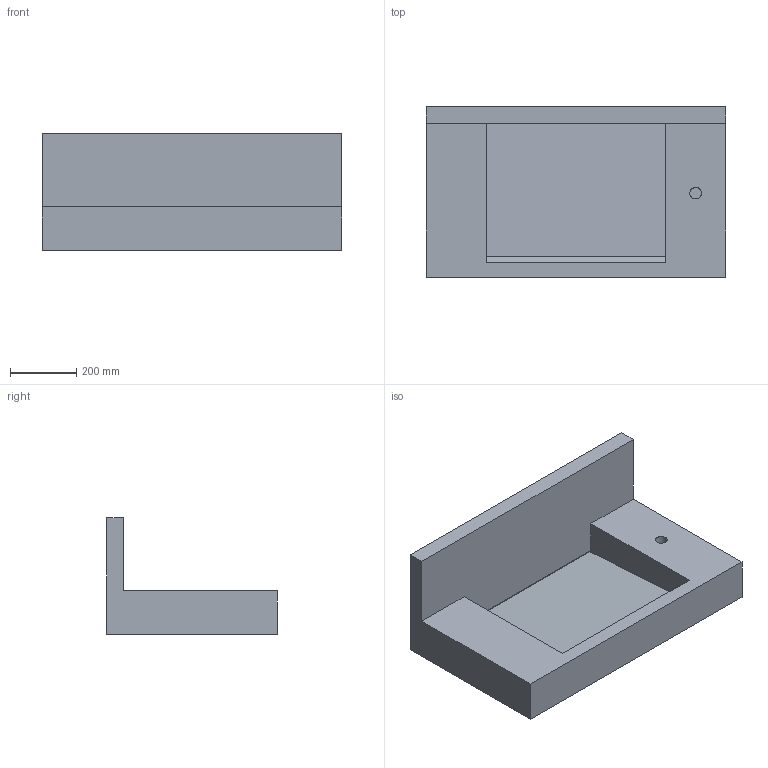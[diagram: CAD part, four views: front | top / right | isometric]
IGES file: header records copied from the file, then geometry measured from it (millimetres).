
Start section: Data from Parasolid IGES Translator 19.0.9, Copyright(c) 2006 Siemens PL M Software. All Rights Reserved.
Global section: file name: noorth-top-H 13 D 51,3 W 90_4791.igs; native system: By Siemens PLM Incorporated; preprocessor: XPlus GENERIC/IGES 19.0.9; author: Noname; organization: Noname; date: 20200601.163401; units: metre
Bounding box: 900 x 513 x 350 mm (x, y, z)
Volume: 45193730.8 mm3; surface area: 1996622.2 mm2
Topology: 2 solids, 2 shells, 23 faces, 58 edges, 39 vertices
Faces by surface type: plane 22, cylinder 1
Full cylindrical faces by diameter (mm): 34.9 x1
